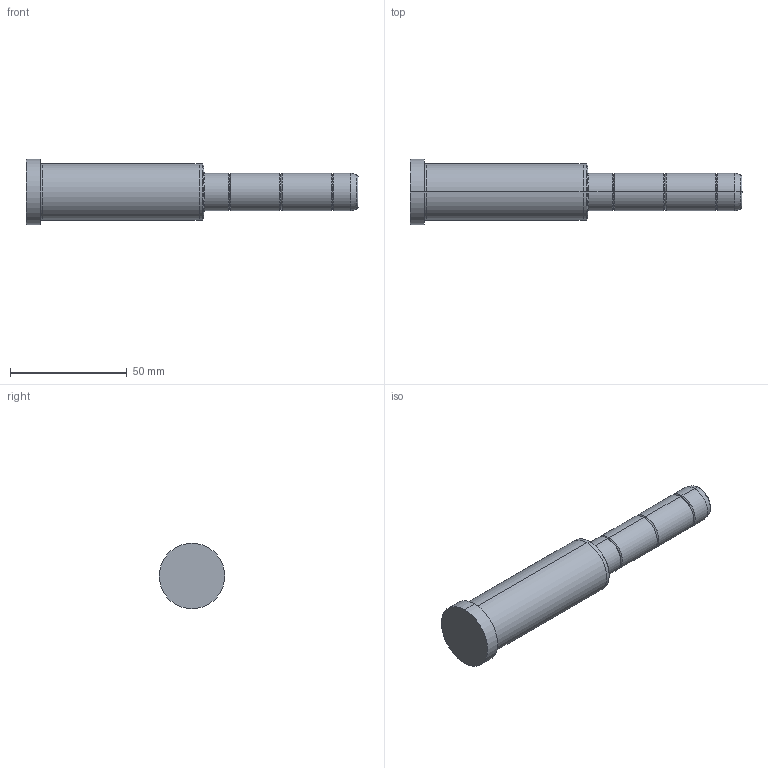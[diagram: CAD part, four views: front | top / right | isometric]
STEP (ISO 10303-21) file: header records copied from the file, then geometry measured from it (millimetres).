
FILE_DESCRIPTION( ( 'STEP AP203' ), '1' );
FILE_NAME( 'D:/Delta 3 D/D02/16/D02 - 16x76x66.step', '2003-01-04T13:06:05', ( ' ' ), ( ' ' ), 'XStep 1.0', ' ', ' ' );
FILE_SCHEMA( ( 'CONFIG_CONTROL_DESIGN' ) );
Length unit declared in the file: metre
Products named in the file (1): 1
Bounding box: 142 x 28 x 28 mm (x, y, z)
Volume: 48554.6 mm3; surface area: 10352.6 mm2
Topology: 1 solids, 1 shells, 42 faces, 82 edges, 46 vertices
Faces by surface type: bspline 22, revolution 20
Entity records: 1325 total; most frequent: CARTESIAN_POINT 517, ORIENTED_EDGE 164, DIRECTION 134, EDGE_CURVE 82, AXIS2_PLACEMENT_3D 47, EDGE_LOOP 46, VERTEX_POINT 46, CIRCLE 46
